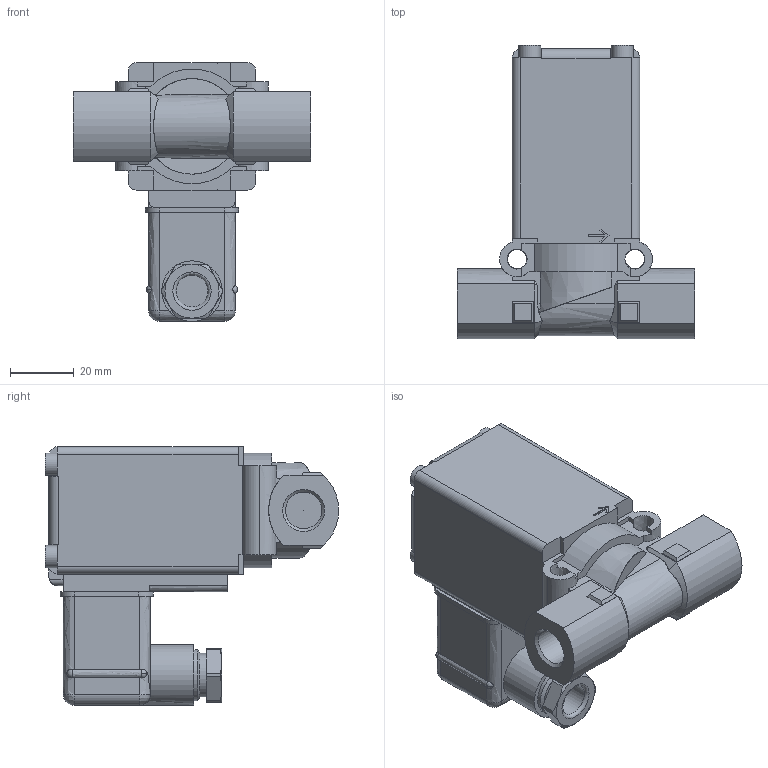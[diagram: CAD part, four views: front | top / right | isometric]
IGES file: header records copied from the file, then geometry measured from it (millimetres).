
Start section: Data from Parasolid IGES Translator 26.0.171, Copyright(c) 2006 Siemens PLM Software. All Rights Reserved.
Global section: file name: 0256-145738-2_2-way_Solenoid_Valve.igs; native system: By Siemens PLM Incorporated; preprocessor: XPlus GENERIC/IGES 26.0.171; author: Noname; organization: Noname; date: 20240805.153247; units: millimetre
Bounding box: 74.5 x 92.1 x 81.2 mm (x, y, z)
Surface area: 27841.2 mm2 (no closed solid volume)
Topology: 0 solids, 0 shells, 256 faces, 1366 edges, 1349 vertices
Faces by surface type: extrusion 162, revolution 94
